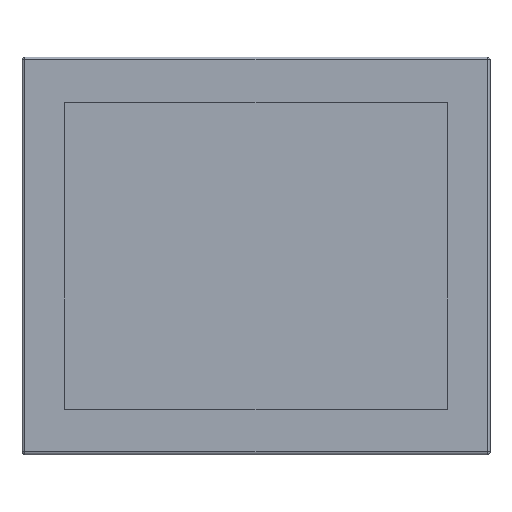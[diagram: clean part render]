
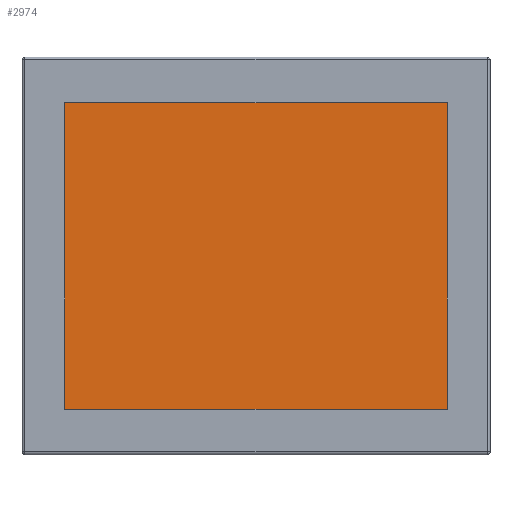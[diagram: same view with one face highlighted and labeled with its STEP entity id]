
A CAD part, top view. The second image highlights one B-rep face of the part: STEP entity #2974.
In plain terms, the highlighted planar face has unit normal (0, 0, 1).
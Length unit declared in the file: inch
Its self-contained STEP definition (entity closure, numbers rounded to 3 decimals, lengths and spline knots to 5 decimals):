
#24 = ORIENTED_EDGE ( 'NONE', *, *, #3468, .T. ) ;
#198 = ORIENTED_EDGE ( 'NONE', *, *, #1559, .T. ) ;
#244 = CARTESIAN_POINT ( 'NONE',  ( 6.7, 5.37, -0.095 ) ) ;
#357 = CARTESIAN_POINT ( 'NONE',  ( -6.7, 5.37, -0.095 ) ) ;
#410 = VECTOR ( 'NONE', #1352, 39.37008 ) ;
#475 = VERTEX_POINT ( 'NONE', #2450 ) ;
#998 = VECTOR ( 'NONE', #1766, 39.37008 ) ;
#1241 = CARTESIAN_POINT ( 'NONE',  ( -6.7, 5.37, -0.095 ) ) ;
#1249 = VECTOR ( 'NONE', #2516, 39.37008 ) ;
#1253 = LINE ( 'NONE', #357, #3612 ) ;
#1352 = DIRECTION ( 'NONE',  ( 1., 0., 0. ) ) ;
#1450 = VERTEX_POINT ( 'NONE', #3479 ) ;
#1468 = LINE ( 'NONE', #244, #998 ) ;
#1559 = EDGE_CURVE ( 'NONE', #1450, #3069, #1468, .T. ) ;
#1637 = CARTESIAN_POINT ( 'NONE',  ( -6.7, -5.37, -0.095 ) ) ;
#1672 = PLANE ( 'NONE',  #2147 ) ;
#1766 = DIRECTION ( 'NONE',  ( 0., 1., 0. ) ) ;
#1842 = LINE ( 'NONE', #1637, #410 ) ;
#1934 = EDGE_CURVE ( 'NONE', #3954, #1450, #1842, .T. ) ;
#1965 = ORIENTED_EDGE ( 'NONE', *, *, #1934, .T. ) ;
#1983 = CARTESIAN_POINT ( 'NONE',  ( 6.7, 5.37, -0.095 ) ) ;
#2147 = AXIS2_PLACEMENT_3D ( 'NONE', #2150, #3188, #3303 ) ;
#2150 = CARTESIAN_POINT ( 'NONE',  ( 0., 0., -0.095 ) ) ;
#2265 = FACE_OUTER_BOUND ( 'NONE', #2267, .T. ) ;
#2267 = EDGE_LOOP ( 'NONE', ( #24, #1965, #198, #2449 ) ) ;
#2449 = ORIENTED_EDGE ( 'NONE', *, *, #3928, .T. ) ;
#2450 = CARTESIAN_POINT ( 'NONE',  ( -6.7, 5.37, -0.095 ) ) ;
#2516 = DIRECTION ( 'NONE',  ( -1., 0., 0. ) ) ;
#2539 = LINE ( 'NONE', #1241, #1249 ) ;
#2974 = ADVANCED_FACE ( 'NONE', ( #2265 ), #1672, .T. ) ;
#3069 = VERTEX_POINT ( 'NONE', #1983 ) ;
#3101 = CARTESIAN_POINT ( 'NONE',  ( -6.7, -5.37, -0.095 ) ) ;
#3188 = DIRECTION ( 'NONE',  ( 0., 0., 1. ) ) ;
#3215 = DIRECTION ( 'NONE',  ( 0., -1., 0. ) ) ;
#3303 = DIRECTION ( 'NONE',  ( 1., 0., 0. ) ) ;
#3468 = EDGE_CURVE ( 'NONE', #475, #3954, #1253, .T. ) ;
#3479 = CARTESIAN_POINT ( 'NONE',  ( 6.7, -5.37, -0.095 ) ) ;
#3612 = VECTOR ( 'NONE', #3215, 39.37008 ) ;
#3928 = EDGE_CURVE ( 'NONE', #3069, #475, #2539, .T. ) ;
#3954 = VERTEX_POINT ( 'NONE', #3101 ) ;
